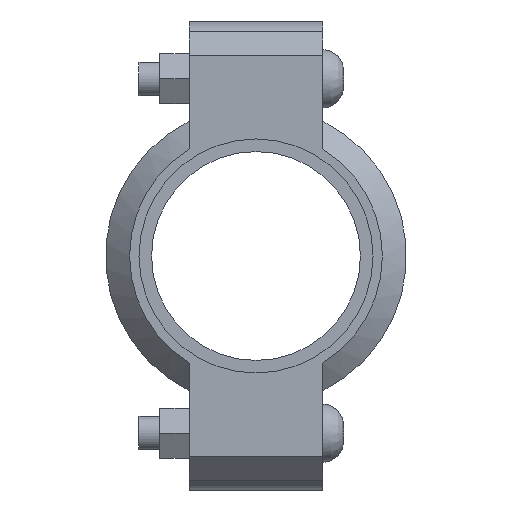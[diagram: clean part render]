
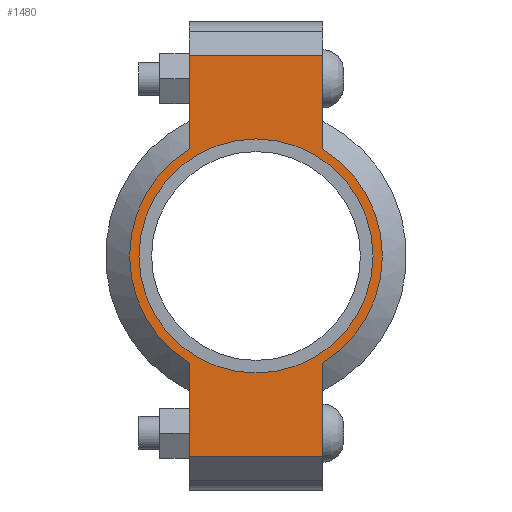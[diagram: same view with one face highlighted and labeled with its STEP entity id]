
A CAD part, left-side view. The second image highlights one B-rep face of the part: STEP entity #1480.
In plain terms, the highlighted planar face has unit normal (-1, 0, 0) as drawn and (0, 0, 1) by its records, which use the part's own axes.
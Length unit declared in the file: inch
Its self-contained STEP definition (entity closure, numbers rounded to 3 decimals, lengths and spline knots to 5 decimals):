
#160=LINE('',#2549,#251);
#168=LINE('',#2585,#259);
#175=LINE('',#2606,#266);
#184=LINE('',#2638,#275);
#185=LINE('',#2642,#276);
#186=LINE('',#2644,#277);
#251=VECTOR('',#2059,0.3937);
#259=VECTOR('',#2075,0.3937);
#266=VECTOR('',#2094,0.3937);
#275=VECTOR('',#2119,0.3937);
#276=VECTOR('',#2124,0.3937);
#277=VECTOR('',#2125,0.3937);
#329=FACE_BOUND('',#489,.T.);
#393=FACE_OUTER_BOUND('',#488,.T.);
#488=EDGE_LOOP('',(#1215,#1216,#1217,#1218,#1219,#1220,#1221,#1222));
#489=EDGE_LOOP('',(#1223));
#586=CIRCLE('',#1723,1.89);
#587=CIRCLE('',#1724,1.89);
#588=CIRCLE('',#1725,1.75);
#691=VERTEX_POINT('',#2546);
#692=VERTEX_POINT('',#2548);
#703=VERTEX_POINT('',#2580);
#704=VERTEX_POINT('',#2584);
#711=VERTEX_POINT('',#2603);
#712=VERTEX_POINT('',#2605);
#722=VERTEX_POINT('',#2641);
#723=VERTEX_POINT('',#2643);
#724=VERTEX_POINT('',#2646);
#855=EDGE_CURVE('',#692,#691,#160,.T.);
#869=EDGE_CURVE('',#704,#703,#168,.T.);
#879=EDGE_CURVE('',#712,#711,#175,.T.);
#894=EDGE_CURVE('',#704,#691,#184,.T.);
#895=EDGE_CURVE('',#703,#712,#586,.T.);
#896=EDGE_CURVE('',#722,#711,#185,.T.);
#897=EDGE_CURVE('',#722,#723,#186,.T.);
#898=EDGE_CURVE('',#723,#692,#587,.T.);
#899=EDGE_CURVE('',#724,#724,#588,.T.);
#1215=ORIENTED_EDGE('',*,*,#894,.F.);
#1216=ORIENTED_EDGE('',*,*,#869,.T.);
#1217=ORIENTED_EDGE('',*,*,#895,.T.);
#1218=ORIENTED_EDGE('',*,*,#879,.T.);
#1219=ORIENTED_EDGE('',*,*,#896,.F.);
#1220=ORIENTED_EDGE('',*,*,#897,.T.);
#1221=ORIENTED_EDGE('',*,*,#898,.T.);
#1222=ORIENTED_EDGE('',*,*,#855,.T.);
#1223=ORIENTED_EDGE('',*,*,#899,.T.);
#1334=PLANE('',#1722);
#1480=ADVANCED_FACE('',(#393,#329),#1334,.T.);
#1722=AXIS2_PLACEMENT_3D('',#2639,#2120,#2121);
#1723=AXIS2_PLACEMENT_3D('',#2640,#2122,#2123);
#1724=AXIS2_PLACEMENT_3D('',#2645,#2126,#2127);
#1725=AXIS2_PLACEMENT_3D('',#2647,#2128,#2129);
#2059=DIRECTION('',(-1.,0.,0.));
#2075=DIRECTION('',(1.,0.,0.));
#2094=DIRECTION('',(1.,0.,0.));
#2119=DIRECTION('',(0.,1.,0.));
#2120=DIRECTION('center_axis',(0.,0.,1.));
#2121=DIRECTION('ref_axis',(1.,0.,0.));
#2122=DIRECTION('center_axis',(0.,0.,1.));
#2123=DIRECTION('ref_axis',(-1.,0.,0.));
#2124=DIRECTION('',(0.,-1.,0.));
#2125=DIRECTION('',(-1.,0.,0.));
#2126=DIRECTION('center_axis',(0.,0.,1.));
#2127=DIRECTION('ref_axis',(-1.,0.,0.));
#2128=DIRECTION('center_axis',(0.,0.,-1.));
#2129=DIRECTION('ref_axis',(-1.,0.,0.));
#2546=CARTESIAN_POINT('',(-3.,1.,0.94));
#2548=CARTESIAN_POINT('',(-1.60378,1.,0.94));
#2549=CARTESIAN_POINT('',(-3.5,1.,0.94));
#2580=CARTESIAN_POINT('',(-1.60378,-1.,0.94));
#2584=CARTESIAN_POINT('',(-3.,-1.,0.94));
#2585=CARTESIAN_POINT('',(3.5,-1.,0.94));
#2603=CARTESIAN_POINT('',(3.,-1.,0.94));
#2605=CARTESIAN_POINT('',(1.60378,-1.,0.94));
#2606=CARTESIAN_POINT('',(3.5,-1.,0.94));
#2638=CARTESIAN_POINT('',(-3.,0.5,0.94));
#2639=CARTESIAN_POINT('Origin',(0.,0.,
0.94));
#2640=CARTESIAN_POINT('Origin',(0.,0.,0.94));
#2641=CARTESIAN_POINT('',(3.,1.,0.94));
#2642=CARTESIAN_POINT('',(3.,-0.5,0.94));
#2643=CARTESIAN_POINT('',(1.60378,1.,0.94));
#2644=CARTESIAN_POINT('',(-3.5,1.,0.94));
#2645=CARTESIAN_POINT('Origin',(0.,0.,0.94));
#2646=CARTESIAN_POINT('',(1.75,0.,0.94));
#2647=CARTESIAN_POINT('Origin',(0.,0.,0.94));
